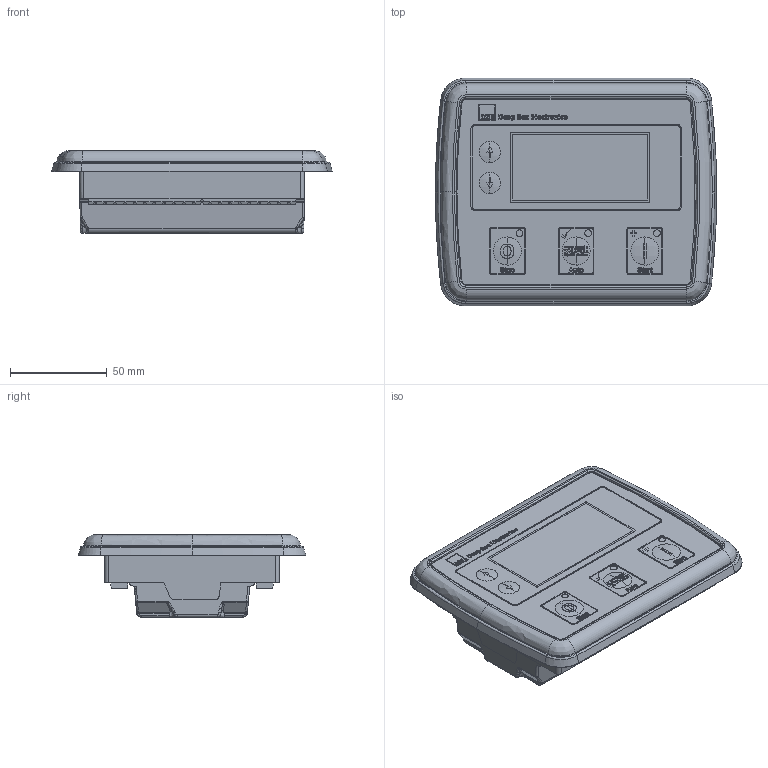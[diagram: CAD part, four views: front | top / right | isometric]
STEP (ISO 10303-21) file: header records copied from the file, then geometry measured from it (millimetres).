
FILE_DESCRIPTION (( 'STEP AP214' ), '1' );
FILE_NAME ('DSE4520 Enclosure Part 2.STEP', '2016-10-17T15:48:09', ( '' ), ( '' ), 'SwSTEP 2.0', 'SolidWorks 2016', '' );
FILE_SCHEMA (( 'AUTOMOTIVE_DESIGN' ));
Products named in the file (2): DSE4520 Enclosure Part 2
Bounding box: 145.16 x 117.72 x 42.6 mm (x, y, z)
Volume: 415246.4 mm3; surface area: 52454.8 mm2
Topology: 1 solids, 4 shells, 1923 faces, 5053 edges, 3260 vertices
Faces by surface type: plane 1006, bspline 755, cylinder 107, cone 55
Entity records: 78288 total; most frequent: CARTESIAN_POINT 37387, ORIENTED_EDGE 10104, DIRECTION 5547, EDGE_CURVE 5052, VERTEX_POINT 3260, LINE 2805, VECTOR 2805, EDGE_LOOP 2046
